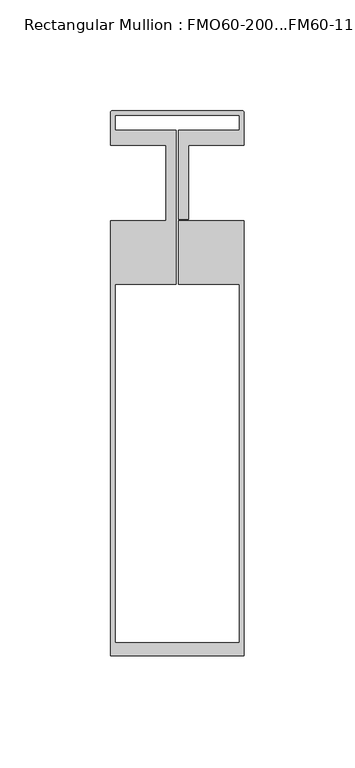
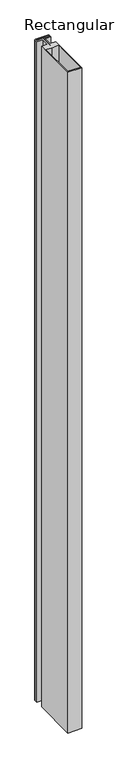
"""IFC4 building model written with IfcOpenShell, lengths in millimetres: member geometry, Rectangular Mullion : FMO60-200...FM60-11."""

from ifc_helpers import new_model, si_unit, point, frame, frame_2d, origin, place, context, project, spatial, polyline, circle_curve, trimmed, segment, composite_curve, outline, extrude, source, transform, mapped, element, save


def rectangular_mullion_fmo60_200_fm60_11_a42c40b5(model_context):
    return source(origin(), model_context, "Body", "SweptSolid", [
        extrude(outline(composite_curve([segment(polyline([(-29.5, 32.5117899), (29.5, 32.5117899)]), True, "CONTINUOUS"), segment(trimmed(circle_curve(frame_2d((29.5, 32.0117899)), 0.5), [point((29.5, 32.5117899))], [point((30.0, 32.0117899))], False, "CARTESIAN"), True, "CONTINUOUS"), segment(polyline([(30.0, 32.0117899), (30.0, 17.0), (5.0, 17.0), (5.0, -16.2), (0.5, -16.2), (0.5, 23.8476589), (28.0000412, 23.8476589), (28.0000412, 30.5117899), (-28.0000412, 30.5117899), (-28.0000412, 23.8476589), (-0.5, 23.8476589), (-0.5, -45.5034642), (-28.0, -45.5034642), (-28.0, -207.009342), (28.0, -207.009342), (28.0, -45.5034642), (0.5, -45.5034642), (0.5, -17.0), (30.0, -17.0), (30.0, -213.009342), (-30.0, -213.009342), (-30.0, -17.0), (-5.0, -17.0), (-5.0, 17.0), (-30.0, 17.0), (-30.0, 32.0117899)]), True, "CONTINUOUS"), segment(trimmed(circle_curve(frame_2d((-29.5, 32.0117899)), 0.5), [point((-30.0, 32.0117899))], [point((-29.5, 32.5117899))], False, "CARTESIAN"), True, "CONTINUOUS")], self_intersect=False)), frame((0.0, 0.0, -3000.0), z_axis=(0.0, 0.0, 1.0), x_axis=(1.0, 0.0, 0.0)), (0.0, 0.0, 1.0), 3000.0),
    ])


if __name__ == "__main__":
    model = new_model("IFC4")
    model_context = context("Model", 3, world=origin())
    ifc_project = project(units=[si_unit("LENGTHUNIT", "METRE", prefix="MILLI")], contexts=[model_context])
    site = spatial("IfcSite", under=ifc_project)
    building = spatial("IfcBuilding", under=site)
    placement = place(None, origin())
    rectangular_mullion_fmo60_200_fm60_11_shape = rectangular_mullion_fmo60_200_fm60_11_a42c40b5(model_context)
    element("IfcMember", 1, ObjectType="Rectangular Mullion : FMO60-200...FM60-11", at=placement, inside=building, context=model_context, shape_type="MappedRepresentation", body=[
        mapped(rectangular_mullion_fmo60_200_fm60_11_shape, transform((0.0, 0.0, 0.0), x_axis=(1.0, 0.0, 0.0), y_axis=(0.0, 1.0, 0.0), z_axis=(0.0, 0.0, 1.0))),
    ])
    save(model, "model.ifc")
